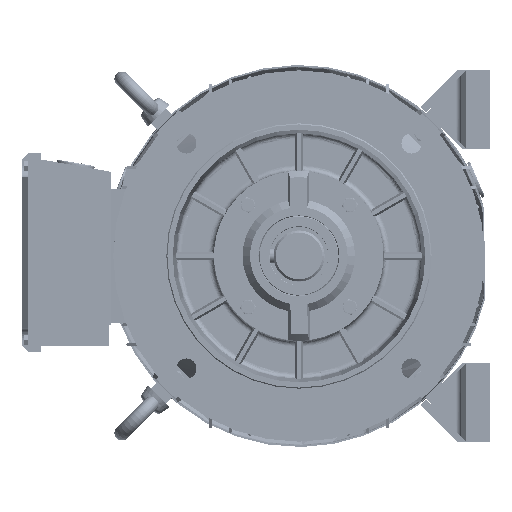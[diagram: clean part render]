
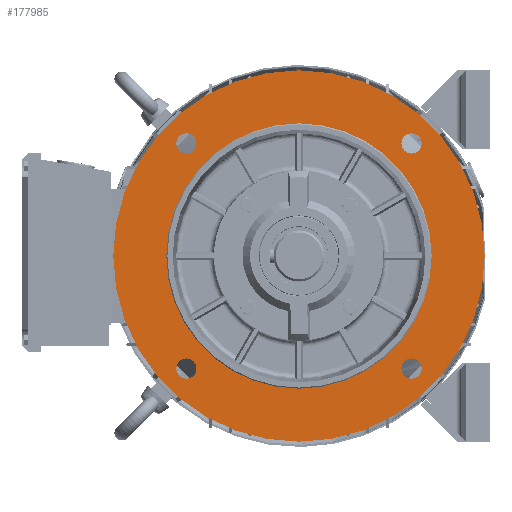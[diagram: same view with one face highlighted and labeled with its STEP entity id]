
A CAD part, left-side view. The second image highlights one B-rep face of the part: STEP entity #177985.
In plain terms, the highlighted planar face has unit normal (-1, 0, 0).
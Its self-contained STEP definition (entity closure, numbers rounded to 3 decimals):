
#90951 = DIRECTION ( 'NONE',  ( 1., 0., 0. ) ) ;
#90955 = CARTESIAN_POINT ( 'NONE',  ( 0., 175., 0. ) ) ;
#90972 = AXIS2_PLACEMENT_3D ( 'NONE', #90955, #90951, #91080 ) ;
#90973 = FACE_OUTER_BOUND ( 'NONE', #178118, .T. ) ;
#90975 = FACE_BOUND ( 'NONE', #178179, .T. ) ;
#90977 = FACE_BOUND ( 'NONE', #178080, .T. ) ;
#90978 = FACE_BOUND ( 'NONE', #178068, .T. ) ;
#90984 = PLANE ( 'NONE',  #90972 ) ;
#90986 = FACE_BOUND ( 'NONE', #178053, .T. ) ;
#90988 = FACE_BOUND ( 'NONE', #177989, .T. ) ;
#91071 = DIRECTION ( 'NONE',  ( 0., 0., 1. ) ) ;
#91072 = DIRECTION ( 'NONE',  ( -1., 0., 0. ) ) ;
#91073 = CARTESIAN_POINT ( 'NONE',  ( 0., -106.066, -106.066 ) ) ;
#91074 = AXIS2_PLACEMENT_3D ( 'NONE', #91073, #91072, #91071 ) ;
#91075 = CIRCLE ( 'NONE', #91074, 9.5 ) ;
#91080 = DIRECTION ( 'NONE',  ( 0., 0., -1. ) ) ;
#91094 = DIRECTION ( 'NONE',  ( 0., 0., 1. ) ) ;
#91096 = DIRECTION ( 'NONE',  ( -1., 0., 0. ) ) ;
#91098 = CARTESIAN_POINT ( 'NONE',  ( 0., 106.066, 106.066 ) ) ;
#91100 = AXIS2_PLACEMENT_3D ( 'NONE', #91098, #91096, #91094 ) ;
#91102 = CIRCLE ( 'NONE', #91100, 9.5 ) ;
#91114 = DIRECTION ( 'NONE',  ( 0., 0., 1. ) ) ;
#91115 = DIRECTION ( 'NONE',  ( -1., 0., 0. ) ) ;
#91116 = CARTESIAN_POINT ( 'NONE',  ( 0., -106.066, 106.066 ) ) ;
#91117 = AXIS2_PLACEMENT_3D ( 'NONE', #91116, #91115, #91114 ) ;
#91127 = CIRCLE ( 'NONE', #91117, 9.5 ) ;
#91141 = DIRECTION ( 'NONE',  ( 0., 0., 1. ) ) ;
#91142 = DIRECTION ( 'NONE',  ( -1., 0., 0. ) ) ;
#91143 = CARTESIAN_POINT ( 'NONE',  ( 0., 0., 0. ) ) ;
#91145 = AXIS2_PLACEMENT_3D ( 'NONE', #91143, #91142, #91141 ) ;
#91181 = CIRCLE ( 'NONE', #91145, 125. ) ;
#91241 = DIRECTION ( 'NONE',  ( 0., 0., 1. ) ) ;
#91242 = DIRECTION ( 'NONE',  ( -1., 0., 0. ) ) ;
#91244 = CARTESIAN_POINT ( 'NONE',  ( 0., 0., 0. ) ) ;
#91246 = AXIS2_PLACEMENT_3D ( 'NONE', #91244, #91242, #91241 ) ;
#91256 = CIRCLE ( 'NONE', #91246, 175. ) ;
#91316 = DIRECTION ( 'NONE',  ( 0., 0., 1. ) ) ;
#91318 = DIRECTION ( 'NONE',  ( -1., 0., 0. ) ) ;
#91321 = CARTESIAN_POINT ( 'NONE',  ( 0., 106.066, -106.066 ) ) ;
#91323 = AXIS2_PLACEMENT_3D ( 'NONE', #91321, #91318, #91316 ) ;
#91324 = CIRCLE ( 'NONE', #91323, 9.5 ) ;
#95383 = CARTESIAN_POINT ( 'NONE',  ( 0., 106.066, -96.566 ) ) ;
#95385 = DIRECTION ( 'NONE',  ( 0., 0., 1. ) ) ;
#95386 = DIRECTION ( 'NONE',  ( -1., 0., 0. ) ) ;
#95387 = CARTESIAN_POINT ( 'NONE',  ( 0., 106.066, -106.066 ) ) ;
#95388 = AXIS2_PLACEMENT_3D ( 'NONE', #95387, #95386, #95385 ) ;
#95389 = CIRCLE ( 'NONE', #95388, 9.5 ) ;
#95460 = CARTESIAN_POINT ( 'NONE',  ( 0., -106.066, -115.566 ) ) ;
#95610 = CARTESIAN_POINT ( 'NONE',  ( 0., -106.066, -96.566 ) ) ;
#95869 = DIRECTION ( 'NONE',  ( 0., 0., 1. ) ) ;
#95870 = DIRECTION ( 'NONE',  ( -1., 0., 0. ) ) ;
#95871 = CARTESIAN_POINT ( 'NONE',  ( 0., 106.066, 106.066 ) ) ;
#95872 = AXIS2_PLACEMENT_3D ( 'NONE', #95871, #95870, #95869 ) ;
#95873 = CIRCLE ( 'NONE', #95872, 9.5 ) ;
#95879 = CARTESIAN_POINT ( 'NONE',  ( 0., 106.066, -115.566 ) ) ;
#95985 = DIRECTION ( 'NONE',  ( 0., 0., 1. ) ) ;
#95987 = DIRECTION ( 'NONE',  ( -1., 0., 0. ) ) ;
#95990 = AXIS2_PLACEMENT_3D ( 'NONE', #95999, #95987, #95985 ) ;
#95992 = CIRCLE ( 'NONE', #95990, 9.5 ) ;
#95999 = CARTESIAN_POINT ( 'NONE',  ( 0., -106.066, -106.066 ) ) ;
#96160 = CARTESIAN_POINT ( 'NONE',  ( 0., 106.066, 96.566 ) ) ;
#96267 = CARTESIAN_POINT ( 'NONE',  ( 0., 106.066, 115.566 ) ) ;
#96419 = CARTESIAN_POINT ( 'NONE',  ( 0., -106.066, 115.566 ) ) ;
#96421 = DIRECTION ( 'NONE',  ( 0., 0., 1. ) ) ;
#96422 = DIRECTION ( 'NONE',  ( -1., 0., 0. ) ) ;
#96424 = CARTESIAN_POINT ( 'NONE',  ( 0., -106.066, 106.066 ) ) ;
#96425 = AXIS2_PLACEMENT_3D ( 'NONE', #96424, #96422, #96421 ) ;
#96427 = CIRCLE ( 'NONE', #96425, 9.5 ) ;
#96442 = CARTESIAN_POINT ( 'NONE',  ( 0., -106.066, 96.566 ) ) ;
#97144 = CIRCLE ( 'NONE', #97271, 175. ) ;
#97268 = DIRECTION ( 'NONE',  ( 0., 0., 1. ) ) ;
#97269 = DIRECTION ( 'NONE',  ( -1., 0., 0. ) ) ;
#97270 = CARTESIAN_POINT ( 'NONE',  ( 0., 0., 0. ) ) ;
#97271 = AXIS2_PLACEMENT_3D ( 'NONE', #97270, #97269, #97268 ) ;
#97687 = CARTESIAN_POINT ( 'NONE',  ( 0., 0., 175. ) ) ;
#97689 = CARTESIAN_POINT ( 'NONE',  ( 0., 0., -175. ) ) ;
#100276 = CIRCLE ( 'NONE', #101256, 125. ) ;
#101256 = AXIS2_PLACEMENT_3D ( 'NONE', #101740, #101732, #102230 ) ;
#101732 = DIRECTION ( 'NONE',  ( -1., 0., 0. ) ) ;
#101740 = CARTESIAN_POINT ( 'NONE',  ( 0., 0., 0. ) ) ;
#102230 = DIRECTION ( 'NONE',  ( 0., 0., 1. ) ) ;
#103807 = CARTESIAN_POINT ( 'NONE',  ( 0., 0., -125. ) ) ;
#103817 = CARTESIAN_POINT ( 'NONE',  ( 0., 0., 125. ) ) ;
#177985 = ADVANCED_FACE ( 'NONE', ( #90988, #90986, #90978, #90977, #90975, #90973 ), #90984, .F. ) ;
#177989 = EDGE_LOOP ( 'NONE', ( #177992, #178052 ) ) ;
#177992 = ORIENTED_EDGE ( 'NONE', *, *, #177995, .F. ) ;
#177995 = EDGE_CURVE ( 'NONE', #214377, #214281, #91075, .T. ) ;
#178052 = ORIENTED_EDGE ( 'NONE', *, *, #214614, .F. ) ;
#178053 = EDGE_LOOP ( 'NONE', ( #178057, #178065 ) ) ;
#178057 = ORIENTED_EDGE ( 'NONE', *, *, #178062, .F. ) ;
#178062 = EDGE_CURVE ( 'NONE', #214936, #214916, #91127, .T. ) ;
#178065 = ORIENTED_EDGE ( 'NONE', *, *, #214926, .F. ) ;
#178068 = EDGE_LOOP ( 'NONE', ( #178075, #178164 ) ) ;
#178075 = ORIENTED_EDGE ( 'NONE', *, *, #178079, .F. ) ;
#178079 = EDGE_CURVE ( 'NONE', #214788, #214772, #91102, .T. ) ;
#178080 = EDGE_LOOP ( 'NONE', ( #178168, #178176 ) ) ;
#178111 = ORIENTED_EDGE ( 'NONE', *, *, #178115, .F. ) ;
#178115 = EDGE_CURVE ( 'NONE', #219989, #219983, #91181, .T. ) ;
#178118 = EDGE_LOOP ( 'NONE', ( #178119, #178129 ) ) ;
#178119 = ORIENTED_EDGE ( 'NONE', *, *, #215510, .T. ) ;
#178129 = ORIENTED_EDGE ( 'NONE', *, *, #178133, .T. ) ;
#178133 = EDGE_CURVE ( 'NONE', #215815, #215818, #91256, .T. ) ;
#178164 = ORIENTED_EDGE ( 'NONE', *, *, #214540, .F. ) ;
#178168 = ORIENTED_EDGE ( 'NONE', *, *, #178171, .F. ) ;
#178171 = EDGE_CURVE ( 'NONE', #214159, #214530, #91324, .T. ) ;
#178176 = ORIENTED_EDGE ( 'NONE', *, *, #214154, .F. ) ;
#178179 = EDGE_LOOP ( 'NONE', ( #178182, #178111 ) ) ;
#178182 = ORIENTED_EDGE ( 'NONE', *, *, #219980, .F. ) ;
#214154 = EDGE_CURVE ( 'NONE', #214530, #214159, #95389, .T. ) ;
#214159 = VERTEX_POINT ( 'NONE', #95383 ) ;
#214281 = VERTEX_POINT ( 'NONE', #95460 ) ;
#214377 = VERTEX_POINT ( 'NONE', #95610 ) ;
#214530 = VERTEX_POINT ( 'NONE', #95879 ) ;
#214540 = EDGE_CURVE ( 'NONE', #214772, #214788, #95873, .T. ) ;
#214614 = EDGE_CURVE ( 'NONE', #214281, #214377, #95992, .T. ) ;
#214772 = VERTEX_POINT ( 'NONE', #96160 ) ;
#214788 = VERTEX_POINT ( 'NONE', #96267 ) ;
#214916 = VERTEX_POINT ( 'NONE', #96442 ) ;
#214926 = EDGE_CURVE ( 'NONE', #214916, #214936, #96427, .T. ) ;
#214936 = VERTEX_POINT ( 'NONE', #96419 ) ;
#215510 = EDGE_CURVE ( 'NONE', #215818, #215815, #97144, .T. ) ;
#215815 = VERTEX_POINT ( 'NONE', #97689 ) ;
#215818 = VERTEX_POINT ( 'NONE', #97687 ) ;
#219980 = EDGE_CURVE ( 'NONE', #219983, #219989, #100276, .T. ) ;
#219983 = VERTEX_POINT ( 'NONE', #103817 ) ;
#219989 = VERTEX_POINT ( 'NONE', #103807 ) ;
